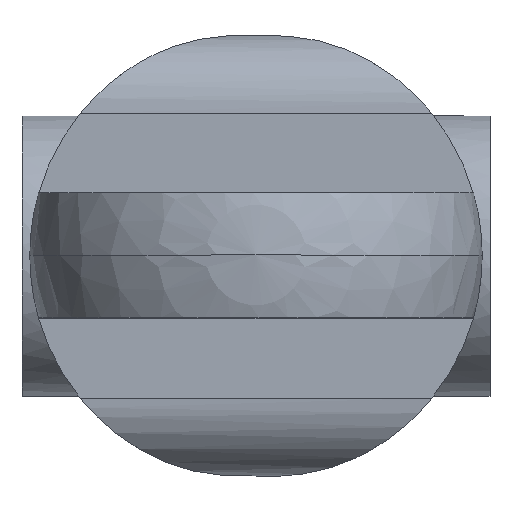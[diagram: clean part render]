
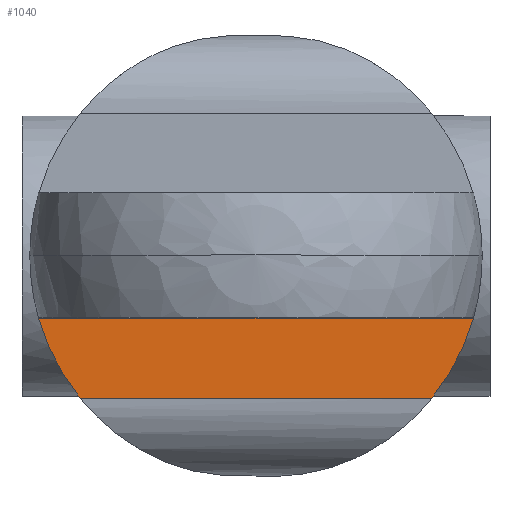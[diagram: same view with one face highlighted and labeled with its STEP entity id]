
A CAD part, top view. The second image highlights one B-rep face of the part: STEP entity #1040.
In plain terms, the highlighted planar face has unit normal (0, 0, 1).
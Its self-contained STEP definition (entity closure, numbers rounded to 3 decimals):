
#212=CARTESIAN_POINT('',(-11.271,-9.122,0.));
#214=CARTESIAN_POINT('',(11.271,-9.122,0.));
#230=CARTESIAN_POINT('',(0.,0.,0.));
#231=DIRECTION('',(0.,0.,1.));
#232=DIRECTION('',(0.777,-0.629,0.));
#233=AXIS2_PLACEMENT_3D('',#230,#231,#232);
#312=CARTESIAN_POINT('',(0.,0.,0.));
#313=DIRECTION('',(0.,0.,1.));
#314=DIRECTION('',(-0.961,-0.276,0.));
#315=AXIS2_PLACEMENT_3D('',#312,#313,#314);
#317=DIRECTION('',(1.,0.,0.));
#318=VECTOR('',#317,22.542);
#319=CARTESIAN_POINT('',(-11.271,-9.122,0.));
#320=LINE('',#319,#318);
#325=DIRECTION('',(-1.,0.,0.));
#326=VECTOR('',#325,27.875);
#327=CARTESIAN_POINT('',(13.937,-4.,0.));
#328=LINE('',#327,#326);
#721=CARTESIAN_POINT('',(-13.937,-4.,0.));
#722=VERTEX_POINT('',#721);
#723=CARTESIAN_POINT('',(13.937,-4.,0.));
#724=VERTEX_POINT('',#723);
#810=VERTEX_POINT('',#212);
#811=VERTEX_POINT('',#214);
#1028=CARTESIAN_POINT('',(17.4,-14.5,0.));
#1029=DIRECTION('',(0.,0.,-1.));
#1030=DIRECTION('',(0.,1.,0.));
#1031=AXIS2_PLACEMENT_3D('',#1028,#1029,#1030);
#1032=PLANE('',#1031);
#1033=ORIENTED_EDGE('',*,*,#1022,.F.);
#1034=ORIENTED_EDGE('',*,*,#1011,.F.);
#1036=ORIENTED_EDGE('',*,*,#1035,.F.);
#1037=ORIENTED_EDGE('',*,*,#999,.F.);
#1038=EDGE_LOOP('',(#1033,#1034,#1036,#1037));
#1039=FACE_OUTER_BOUND('',#1038,.F.);
#1040=ADVANCED_FACE('',(#1039),#1032,.F.);
#234=CIRCLE('',#233,14.5);
#316=CIRCLE('',#315,14.5);
#999=EDGE_CURVE('',#811,#724,#234,.T.);
#1011=EDGE_CURVE('',#722,#810,#316,.T.);
#1022=EDGE_CURVE('',#810,#811,#320,.T.);
#1035=EDGE_CURVE('',#724,#722,#328,.T.);
